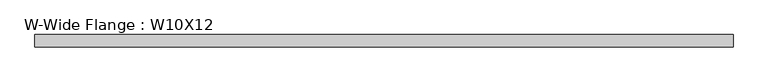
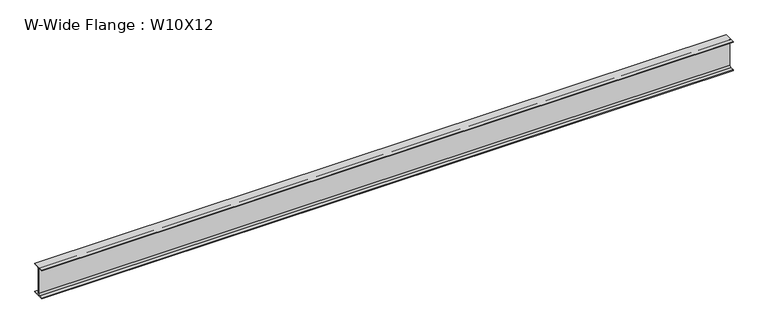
"""IFC4 building model written with IfcOpenShell, lengths in millimetres: beam geometry, W-Wide Flange : W10X12."""

from ifc_helpers import new_model, si_unit, point, frame, frame_2d, origin, place, context, project, spatial, polyline, circle_curve, trimmed, segment, composite_curve, outline, extrude, source, transform, mapped, element, save


def w_wide_flange_w10x12_156ffe02(model_context):
    return source(origin(), model_context, "Body", "SweptSolid", [
        extrude(outline(composite_curve([segment(polyline([(50.292, -120.015), (50.292, -125.349), (-50.292, -125.349), (-50.292, -120.015), (-16.129, -120.015)]), True, "CONTINUOUS"), segment(trimmed(circle_curve(frame_2d((-16.129, -106.299)), 13.716), [point((-16.129, -120.015))], [point((-2.413, -106.299))], True, "CARTESIAN"), True, "CONTINUOUS"), segment(polyline([(-2.413, -106.299), (-2.413, 106.299)]), True, "CONTINUOUS"), segment(trimmed(circle_curve(frame_2d((-16.129, 106.299)), 13.716), [point((-2.413, 106.299))], [point((-16.129, 120.015))], True, "CARTESIAN"), True, "CONTINUOUS"), segment(polyline([(-16.129, 120.015), (-50.292, 120.015), (-50.292, 125.349), (50.292, 125.349), (50.292, 120.015), (16.129, 120.015)]), True, "CONTINUOUS"), segment(trimmed(circle_curve(frame_2d((16.129, 106.299)), 13.716), [point((16.129, 120.015))], [point((2.413, 106.299))], True, "CARTESIAN"), True, "CONTINUOUS"), segment(polyline([(2.413, 106.299), (2.413, -106.299)]), True, "CONTINUOUS"), segment(trimmed(circle_curve(frame_2d((16.129, -106.299)), 13.716), [point((2.413, -106.299))], [point((16.129, -120.015))], True, "CARTESIAN"), True, "CONTINUOUS"), segment(polyline([(16.129, -120.015), (50.292, -120.015)]), True, "CONTINUOUS")], self_intersect=False)), frame((-2921.381, 0.0, 0.0), z_axis=(1.0, 0.0, 0.0), x_axis=(0.0, 1.0, 0.0)), (0.0, 0.0, 1.0), 5720.1435),
    ])


if __name__ == "__main__":
    model = new_model("IFC4")
    model_context = context("Model", 3, world=origin())
    ifc_project = project(units=[si_unit("LENGTHUNIT", "METRE", prefix="MILLI")], contexts=[model_context])
    site = spatial("IfcSite", under=ifc_project)
    building = spatial("IfcBuilding", under=site)
    placement = place(None, origin())
    w_wide_flange_w10x12_shape = w_wide_flange_w10x12_156ffe02(model_context)
    element("IfcBeam", 1, ObjectType="W-Wide Flange : W10X12", at=placement, inside=building, context=model_context, shape_type="MappedRepresentation", body=[
        mapped(w_wide_flange_w10x12_shape, transform((0.0, 0.0, 0.0), x_axis=(1.0, 0.0, 0.0), y_axis=(0.0, 1.0, 0.0), z_axis=(0.0, 0.0, 1.0))),
    ])
    save(model, "model.ifc")
